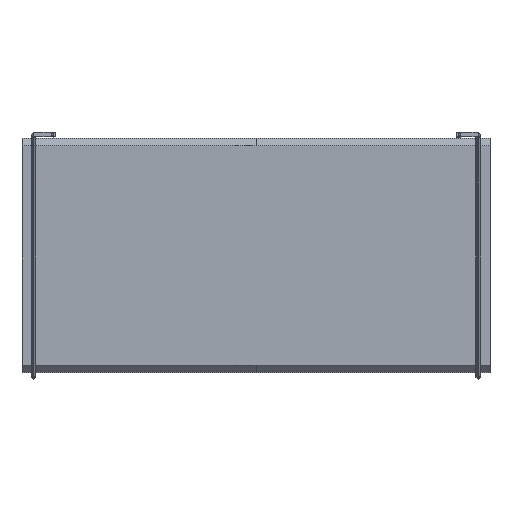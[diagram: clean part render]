
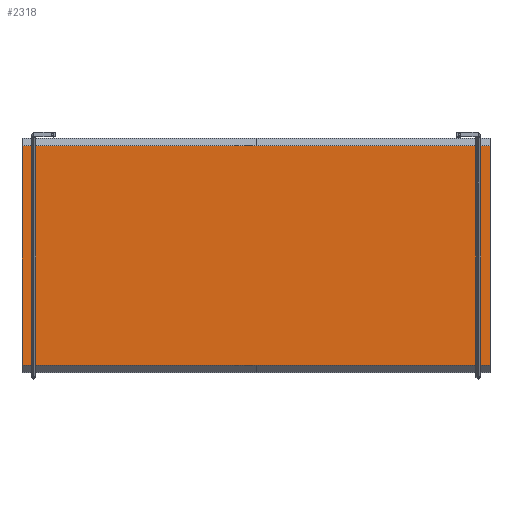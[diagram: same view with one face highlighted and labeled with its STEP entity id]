
A CAD part, top view. The second image highlights one B-rep face of the part: STEP entity #2318.
In plain terms, the highlighted planar face has unit normal (0, 0, 1).
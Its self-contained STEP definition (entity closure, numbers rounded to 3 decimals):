
#1177=B_SPLINE_CURVE_WITH_KNOTS('',1,(#45933,#45934),.UNSPECIFIED.,.F.,
 .F.,(2,2),(0.,400.),.UNSPECIFIED.);
#1178=B_SPLINE_CURVE_WITH_KNOTS('',1,(#45935,#45936),.UNSPECIFIED.,.F.,
 .F.,(2,2),(0.,188.),.UNSPECIFIED.);
#1179=B_SPLINE_CURVE_WITH_KNOTS('',1,(#45937,#45938),.UNSPECIFIED.,.F.,
 .F.,(2,2),(0.,400.),.UNSPECIFIED.);
#1180=B_SPLINE_CURVE_WITH_KNOTS('',1,(#45939,#45940),.UNSPECIFIED.,.F.,
 .F.,(2,2),(0.,188.),.UNSPECIFIED.);
#2318=ADVANCED_FACE('',(#3152),#14165,.T.);
#3152=FACE_OUTER_BOUND('',#3986,.T.);
#3986=EDGE_LOOP('',(#8546,#8547,#8548,#8549));
#8546=ORIENTED_EDGE('',*,*,#11170,.T.);
#8547=ORIENTED_EDGE('',*,*,#11171,.T.);
#8548=ORIENTED_EDGE('',*,*,#11172,.T.);
#8549=ORIENTED_EDGE('',*,*,#11173,.T.);
#11170=EDGE_CURVE('',#14063,#14064,#1177,.T.);
#11171=EDGE_CURVE('',#14064,#14065,#1178,.T.);
#11172=EDGE_CURVE('',#14065,#14066,#1179,.T.);
#11173=EDGE_CURVE('',#14066,#14063,#1180,.T.);
#14063=VERTEX_POINT('',#45925);
#14064=VERTEX_POINT('',#45926);
#14065=VERTEX_POINT('',#45927);
#14066=VERTEX_POINT('',#45928);
#14165=PLANE('',#15459);
#15459=AXIS2_PLACEMENT_3D('',#45919,#16023,$);
#16023=DIRECTION('',(0.,0.,1.));
#45919=CARTESIAN_POINT('',(-1484.258,-12.812,16.));
#45925=CARTESIAN_POINT('',(-1444.246,6.,16.));
#45926=CARTESIAN_POINT('',(-1044.246,6.,16.));
#45927=CARTESIAN_POINT('',(-1044.246,194.,16.));
#45928=CARTESIAN_POINT('',(-1444.246,194.,16.));
#45933=CARTESIAN_POINT('',(-1444.246,6.,16.));
#45934=CARTESIAN_POINT('',(-1044.246,6.,16.));
#45935=CARTESIAN_POINT('',(-1044.246,6.,16.));
#45936=CARTESIAN_POINT('',(-1044.246,194.,16.));
#45937=CARTESIAN_POINT('',(-1044.246,194.,16.));
#45938=CARTESIAN_POINT('',(-1444.246,194.,16.));
#45939=CARTESIAN_POINT('',(-1444.246,194.,16.));
#45940=CARTESIAN_POINT('',(-1444.246,6.,16.));
